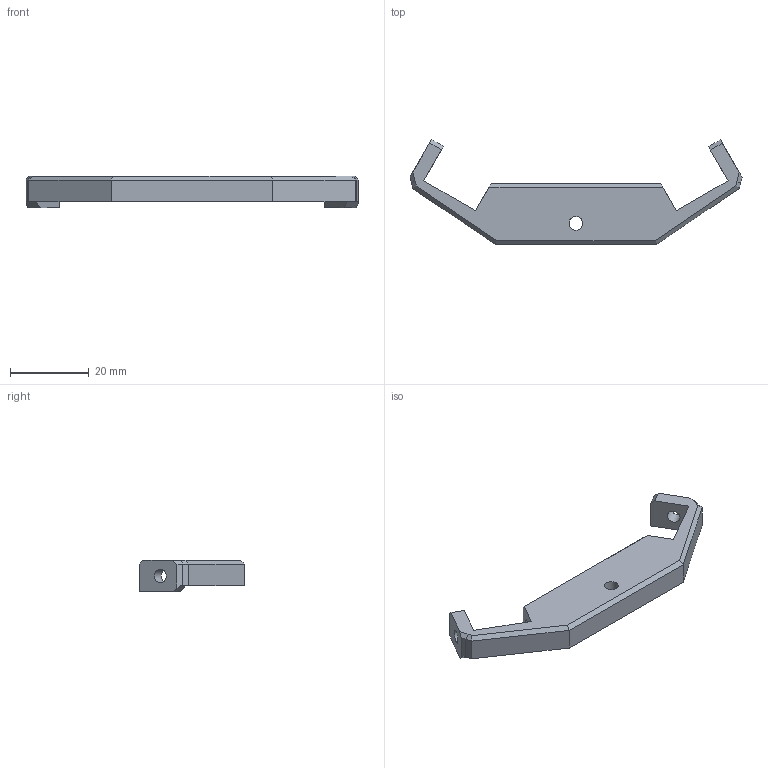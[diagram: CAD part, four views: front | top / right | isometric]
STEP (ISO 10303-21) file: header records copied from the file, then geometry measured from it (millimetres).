
FILE_DESCRIPTION(/* description */ (''),/* implementation_level */ '2;1');
FILE_NAME(/* name */ 'D:\3D печать\Мои проекты\Archy MK 2\STEP\1x effector cooler holder V1.stp',/* time_stamp */ '2019-04-07T09:14:52+06:00',/* author */ ('Пользователь'),/* organization */ (''),/* preprocessor_version */ 'ST-DEVELOPER v16.5',/* originating_system */ 'Autodesk Inventor 2017',/* authorisation */ '');
FILE_SCHEMA (('AUTOMOTIVE_DESIGN { 1 0 10303 214 3 1 1 }'));
Length unit declared in the file: millimetre
Products named in the file (1): крепление \X2\043A0443
043B04350440043E0432\X0\
Bounding box: 84.4 x 26.68 x 8 mm (x, y, z)
Volume: 5824.2 mm3; surface area: 3912.5 mm2
Topology: 1 solids, 1 shells, 51 faces, 131 edges, 86 vertices
Faces by surface type: plane 46, cylinder 5
Full cylindrical faces by diameter (mm): 2.9 x2, 3.4 x2, 3.5 x1
Entity records: 1524 total; most frequent: CARTESIAN_POINT 261, ORIENTED_EDGE 248, DIRECTION 240, EDGE_CURVE 124, LINE 114, VECTOR 114, VERTEX_POINT 84, EDGE_LOOP 66
